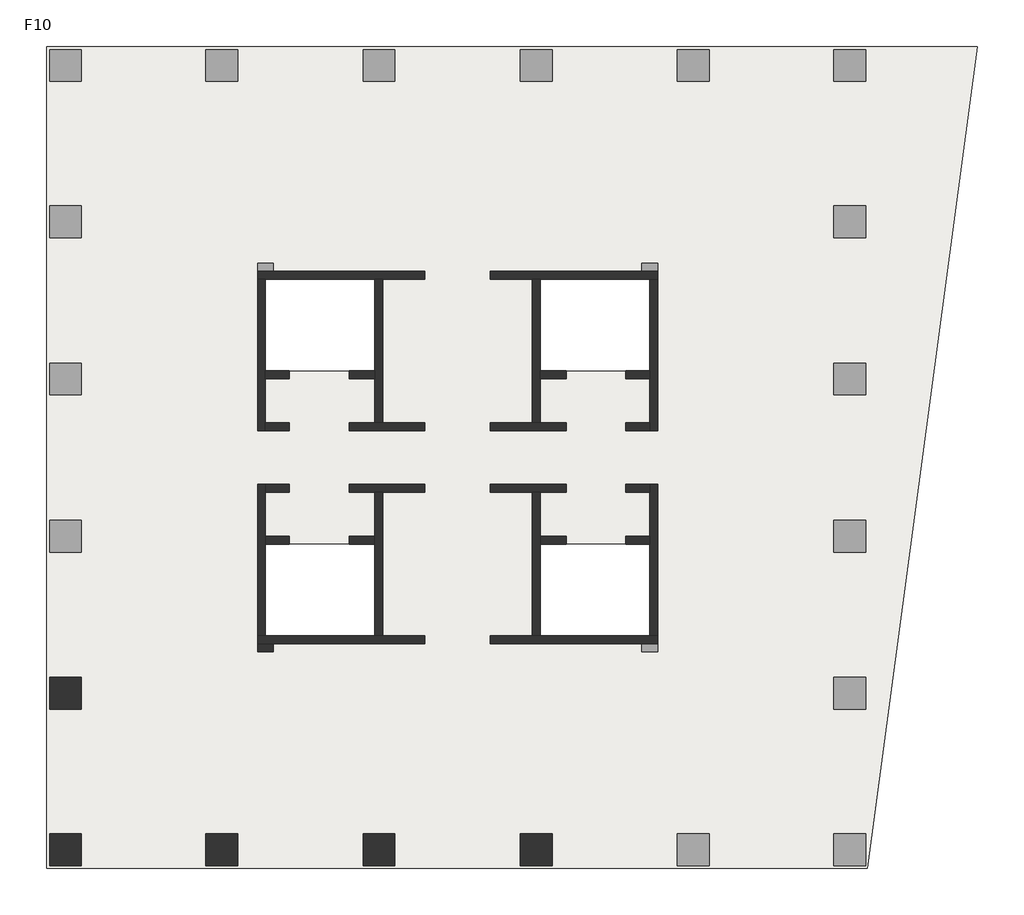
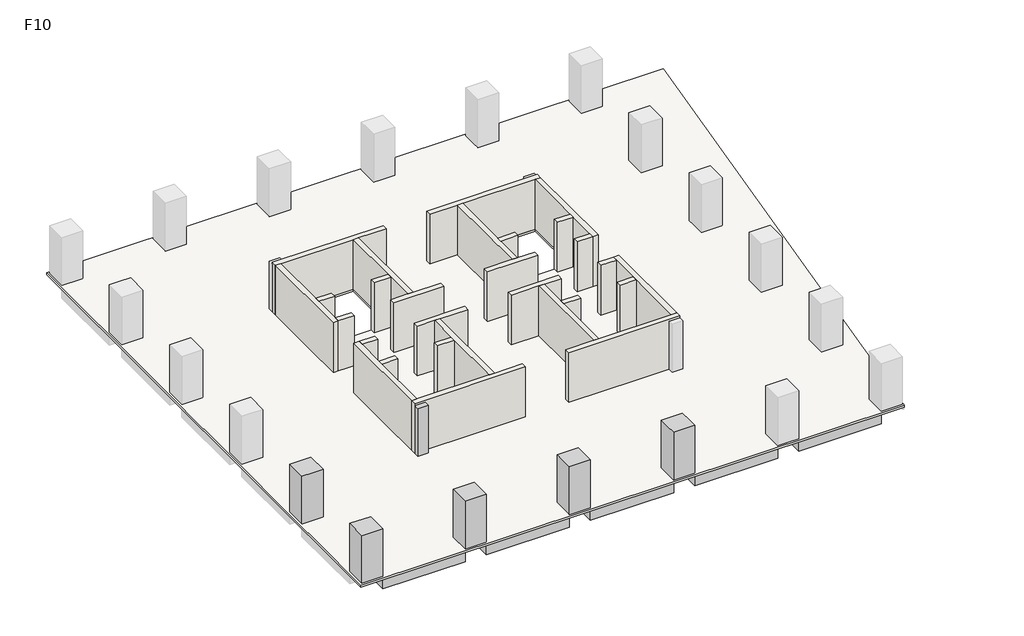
# One storey, part 1 of 2: 28 walls, 6 columns, 5 beams, 1 slab.
"""IFC4 building model written with IfcOpenShell, lengths in millimetres."""

from ifc_helpers import new_model, si_unit, frame, origin, place, context, project, spatial, polyline, outline, extrude, faceted_brep, element, save

model = new_model("IFC4")

# Units and contexts
model_context = context("Model", 3, world=origin())
ifc_project = project(units=[si_unit("LENGTHUNIT", "METRE", prefix="MILLI")], contexts=[model_context])

# Site, building, storey
site = spatial("IfcSite", under=ifc_project)
building = spatial("IfcBuilding", under=site)
storey = spatial("IfcBuildingStorey", under=building, Name="F10", Elevation=40000.0)

# Beams
placement = place(None, origin())
element("IfcBeam", 1, ObjectType="混凝土 - 矩形梁 : KL(5)-800x1000", at=placement, inside=storey, context=model_context, shape_type="SweptSolid", body=[
    extrude(outline(polyline([(-12472.6742169, -13948.9501342), (-12472.6742169, -13148.9501342), (-6222.6742169, -13148.9501342), (-6222.6742169, -13948.9501342), (-12472.6742169, -13948.9501342)])), frame((0.0, 0.0, 39000.0), z_axis=(0.0, 0.0, 1.0), x_axis=(1.0, 0.0, 0.0)), (0.0, 0.0, 1.0), 840.0),
    extrude(outline(polyline([(25327.3257831, -13148.9501342), (25327.3257831, -13948.9501342), (19077.3257831, -13948.9501342), (19077.3257831, -13148.9501342), (25327.3257831, -13148.9501342)])), frame((0.0, 0.0, 39000.0), z_axis=(0.0, 0.0, 1.0), x_axis=(1.0, 0.0, 0.0)), (0.0, 0.0, 1.0), 840.0),
    extrude(outline(polyline([(-4622.6742169, -13948.9501342), (-4622.6742169, -13148.9501342), (1677.3257831, -13148.9501342), (1677.3257831, -13948.9501342), (-4622.6742169, -13948.9501342)])), frame((0.0, 0.0, 39000.0), z_axis=(0.0, 0.0, 1.0), x_axis=(1.0, 0.0, 0.0)), (0.0, 0.0, 1.0), 840.0),
    extrude(outline(polyline([(3277.3257831, -13948.9501342), (3277.3257831, -13148.9501342), (9577.3257831, -13148.9501342), (9577.3257831, -13948.9501342), (3277.3257831, -13948.9501342)])), frame((0.0, 0.0, 39000.0), z_axis=(0.0, 0.0, 1.0), x_axis=(1.0, 0.0, 0.0)), (0.0, 0.0, 1.0), 840.0),
    extrude(outline(polyline([(11177.3257831, -13948.9501342), (11177.3257831, -13148.9501342), (17477.3257831, -13148.9501342), (17477.3257831, -13948.9501342), (11177.3257831, -13948.9501342)])), frame((0.0, 0.0, 39000.0), z_axis=(0.0, 0.0, 1.0), x_axis=(1.0, 0.0, 0.0)), (0.0, 0.0, 1.0), 840.0),
])
element("IfcBeam", 2, ObjectType="混凝土 - 矩形梁 : L1-800x500", at=placement, inside=storey, context=model_context, shape_type="Brep", body=[
    faceted_brep([(-12472.6742169, -5512.1353397, 39500.0), (-3746.9473979, -3341.556529, 39500.0), (-3173.6696907, -3198.9501342, 39500.0), (-3173.6696907, -3198.9501342, 39840.0), (-3746.9473979, -3341.556529, 39840.0), (-12472.6742169, -5512.1353397, 39840.0), (-3622.6742169, -3198.9501342, 39500.0), (-12472.6742169, -4687.7549784, 39500.0), (-3622.6742169, -2486.2624411, 39500.0), (-3622.6742169, -2798.9501342, 39500.0), (-12472.6742169, -4687.7549784, 39840.0), (-3622.6742169, -2486.2624411, 39840.0), (-3622.6742169, -3198.9501342, 39840.0)], [[[0, 1, 2, 3, 4, 5]], [[6, 2, 1, 0, 7, 8, 9]], [[8, 7, 10, 11]], [[2, 6, 12, 3]], [[9, 8, 11, 12, 6]], [[7, 0, 5, 10]], [[5, 4, 3, 12, 11, 10]]]),
])
element("IfcBeam", 3, ObjectType="混凝土 - 矩形梁 : L1-800x500", at=placement, inside=storey, context=model_context, shape_type="SweptSolid", body=[
    extrude(outline(polyline([(-3746.9473979, -3341.556529), (-3173.6696907, -3198.9501342), (-2898.7618154, -3198.9501342), (-4843.6893517, -12348.9501342), (-5661.5624638, -12348.9501342), (-3746.9473979, -3341.556529)])), frame((0.0, 0.0, 39500.0), z_axis=(0.0, 0.0, 1.0), x_axis=(1.0, 0.0, 0.0)), (0.0, 0.0, 1.0), 340.0),
])
element("IfcBeam", 4, ObjectType="混凝土 - 矩形梁 : L1-800x500", at=placement, inside=storey, context=model_context, shape_type="SweptSolid", body=[
    extrude(outline(polyline([(2877.3257831, -12348.9501342), (2077.3257831, -12348.9501342), (2077.3257831, -2798.9501342), (2877.3257831, -2798.9501342), (2877.3257831, -12348.9501342)])), frame((0.0, 0.0, 39500.0), z_axis=(0.0, 0.0, 1.0), x_axis=(1.0, 0.0, 0.0)), (0.0, 0.0, 1.0), 340.0),
])
element("IfcBeam", 5, ObjectType="混凝土 - 矩形梁 : L1-800x500", at=placement, inside=storey, context=model_context, shape_type="SweptSolid", body=[
    extrude(outline(polyline([(10777.3257831, -12348.9501342), (9977.3257831, -12348.9501342), (9977.3257831, -2798.9501342), (10777.3257831, -2798.9501342), (10777.3257831, -12348.9501342)])), frame((0.0, 0.0, 39500.0), z_axis=(0.0, 0.0, 1.0), x_axis=(1.0, 0.0, 0.0)), (0.0, 0.0, 1.0), 340.0),
])

# Columns
element("IfcColumn", 6, ObjectType="混凝土 - 矩形 - 柱 : Z1-1600x1600", at=placement, inside=storey, context=model_context, shape_type="Brep", body=[
    faceted_brep([(-12472.6742169, -4498.9501342, 40000.0), (-12472.6742169, -6098.9501342, 40000.0), (-14072.6742169, -6098.9501342, 40000.0), (-14072.6742169, -4498.9501342, 40000.0), (-12472.6742169, -4498.9501342, 43840.0), (-12472.6742169, -6098.9501342, 43840.0), (-13272.6742169, -6098.9501342, 43840.0), (-14072.6742169, -6098.9501342, 43840.0), (-14072.6742169, -6098.9501342, 43000.0), (-14072.6742169, -4498.9501342, 43840.0), (-14072.6742169, -4498.9501342, 43000.0), (-13272.6742169, -4498.9501342, 43840.0)], [[[0, 1, 2, 3]], [[1, 0, 4, 5]], [[2, 1, 5, 6, 7, 8]], [[3, 2, 8, 7, 9, 10]], [[0, 3, 10, 9, 11, 4]], [[5, 4, 11, 9, 7, 6]]]),
])
element("IfcColumn", 7, ObjectType="混凝土 - 矩形 - 柱 : Z1-1600x1600", at=placement, inside=storey, context=model_context, shape_type="SweptSolid", body=[
    extrude(outline(polyline([(-12472.6742169, -12348.9501342), (-12472.6742169, -13948.9501342), (-14072.6742169, -13948.9501342), (-14072.6742169, -12348.9501342), (-12472.6742169, -12348.9501342)])), frame((0.0, 0.0, 40000.0), z_axis=(0.0, 0.0, 1.0), x_axis=(1.0, 0.0, 0.0)), (0.0, 0.0, 1.0), 3840.0),
])
element("IfcColumn", 8, ObjectType="混凝土 - 矩形 - 柱 : Z1-1600x1600", at=placement, inside=storey, context=model_context, shape_type="Brep", body=[
    faceted_brep([(-4622.6742169, -12348.9501342, 40000.0), (-4622.6742169, -13948.9501342, 40000.0), (-6222.6742169, -13948.9501342, 40000.0), (-6222.6742169, -12348.9501342, 40000.0), (-4622.6742169, -12348.9501342, 43840.0), (-4622.6742169, -13148.9501342, 43840.0), (-4622.6742169, -13948.9501342, 43840.0), (-4622.6742169, -13948.9501342, 43000.0), (-6222.6742169, -13948.9501342, 43840.0), (-6222.6742169, -13948.9501342, 43000.0), (-6222.6742169, -13148.9501342, 43840.0), (-6222.6742169, -12348.9501342, 43840.0)], [[[0, 1, 2, 3]], [[1, 0, 4, 5, 6, 7]], [[2, 1, 7, 6, 8, 9]], [[3, 2, 9, 8, 10, 11]], [[0, 3, 11, 4]], [[6, 5, 4, 11, 10, 8]]]),
])
element("IfcColumn", 9, ObjectType="混凝土 - 矩形 - 柱 : Z1-1600x1600", at=placement, inside=storey, context=model_context, shape_type="Brep", body=[
    faceted_brep([(3277.3257831, -12348.9501342, 40000.0), (3277.3257831, -13948.9501342, 40000.0), (1677.3257831, -13948.9501342, 40000.0), (1677.3257831, -12348.9501342, 40000.0), (3277.3257831, -12348.9501342, 43840.0), (3277.3257831, -13148.9501342, 43840.0), (3277.3257831, -13948.9501342, 43840.0), (3277.3257831, -13948.9501342, 43000.0), (1677.3257831, -13948.9501342, 43840.0), (1677.3257831, -13948.9501342, 43000.0), (1677.3257831, -13148.9501342, 43840.0), (1677.3257831, -12348.9501342, 43840.0)], [[[0, 1, 2, 3]], [[1, 0, 4, 5, 6, 7]], [[2, 1, 7, 6, 8, 9]], [[3, 2, 9, 8, 10, 11]], [[0, 3, 11, 4]], [[6, 5, 4, 11, 10, 8]]]),
])
element("IfcColumn", 10, ObjectType="混凝土 - 矩形 - 柱 : Z1-1600x1600", at=placement, inside=storey, context=model_context, shape_type="Brep", body=[
    faceted_brep([(11177.3257831, -12348.9501342, 40000.0), (11177.3257831, -13948.9501342, 40000.0), (9577.3257831, -13948.9501342, 40000.0), (9577.3257831, -12348.9501342, 40000.0), (11177.3257831, -12348.9501342, 43840.0), (11177.3257831, -13148.9501342, 43840.0), (11177.3257831, -13948.9501342, 43840.0), (11177.3257831, -13948.9501342, 43000.0), (9577.3257831, -13948.9501342, 43840.0), (9577.3257831, -13948.9501342, 43000.0), (9577.3257831, -13148.9501342, 43840.0), (9577.3257831, -12348.9501342, 43840.0)], [[[0, 1, 2, 3]], [[1, 0, 4, 5, 6, 7]], [[2, 1, 7, 6, 8, 9]], [[3, 2, 9, 8, 10, 11]], [[0, 3, 11, 4]], [[6, 5, 4, 11, 10, 8]]]),
])
element("IfcColumn", 11, ObjectType="混凝土 - 矩形 - 柱 : Z2-800x800", at=placement, inside=storey, context=model_context, shape_type="SweptSolid", body=[
    extrude(outline(polyline([(-2822.6742169, -3198.9501342), (-3622.6742169, -3198.9501342), (-3622.6742169, -2798.9501342), (-2822.6742169, -2798.9501342), (-2822.6742169, -3198.9501342)])), frame((0.0, 0.0, 40000.0), z_axis=(0.0, 0.0, 1.0), x_axis=(1.0, 0.0, 0.0)), (0.0, 0.0, 1.0), 3840.0),
])

# Slab
element("IfcSlab", 12, ObjectType="LB-160", at=placement, inside=storey, context=model_context, shape_type="Brep", body=[
    faceted_brep([(32549.4477343, 27201.0498658, 39840.0), (32422.0087099, 26251.0498658, 39840.0), (27029.3257831, -13948.9501342, 39840.0), (27011.0393465, -14085.2672073, 39840.0), (-14222.6742169, -14085.2672073, 39840.0), (-14222.6742169, 27201.0498658, 39840.0), (2277.3257831, 15501.0498658, 39840.0), (-3222.6742169, 15501.0498658, 39840.0), (-3222.6742169, 10901.0498658, 39840.0), (2277.3257831, 10901.0498658, 39840.0), (2277.3257831, 2201.0498658, 39840.0), (-3222.6742169, 2201.0498658, 39840.0), (-3222.6742169, -2398.9501342, 39840.0), (2277.3257831, -2398.9501342, 39840.0), (16077.3257831, 2201.0498658, 39840.0), (10577.3257831, 2201.0498658, 39840.0), (10577.3257831, -2398.9501342, 39840.0), (16077.3257831, -2398.9501342, 39840.0), (16077.3257831, 15501.0498658, 39840.0), (10577.3257831, 15501.0498658, 39840.0), (10577.3257831, 10901.0498658, 39840.0), (16077.3257831, 10901.0498658, 39840.0), (32549.4477343, 27201.0498658, 40000.0), (-14222.6742169, 27201.0498658, 40000.0), (-14222.6742169, -14085.2672073, 40000.0), (27011.0393465, -14085.2672073, 40000.0), (2277.3257831, 15501.0498658, 40000.0), (2277.3257831, 10901.0498658, 40000.0), (-3222.6742169, 10901.0498658, 40000.0), (-3222.6742169, 15501.0498658, 40000.0), (2277.3257831, 2201.0498658, 40000.0), (2277.3257831, -2398.9501342, 40000.0), (-3222.6742169, -2398.9501342, 40000.0), (-3222.6742169, 2201.0498658, 40000.0), (16077.3257831, 2201.0498658, 40000.0), (16077.3257831, -2398.9501342, 40000.0), (10577.3257831, -2398.9501342, 40000.0), (10577.3257831, 2201.0498658, 40000.0), (16077.3257831, 15501.0498658, 40000.0), (16077.3257831, 10901.0498658, 40000.0), (10577.3257831, 10901.0498658, 40000.0), (10577.3257831, 15501.0498658, 40000.0)], [[[0, 1, 2, 3, 4, 5], [6, 7, 8, 9], [10, 11, 12, 13], [14, 15, 16, 17], [18, 19, 20, 21]], [[22, 23, 24, 25], [26, 27, 28, 29], [30, 31, 32, 33], [34, 35, 36, 37], [38, 39, 40, 41]], [[3, 2, 1, 0, 22, 25]], [[4, 3, 25, 24]], [[5, 4, 24, 23]], [[0, 5, 23, 22]], [[7, 6, 26, 29]], [[8, 7, 29, 28]], [[9, 8, 28, 27]], [[6, 9, 27, 26]], [[11, 10, 30, 33]], [[12, 11, 33, 32]], [[13, 12, 32, 31]], [[10, 13, 31, 30]], [[15, 14, 34, 37]], [[16, 15, 37, 36]], [[17, 16, 36, 35]], [[14, 17, 35, 34]], [[19, 18, 38, 41]], [[20, 19, 41, 40]], [[21, 20, 40, 39]], [[18, 21, 39, 38]]]),
])

# Walls
element("IfcWall", 13, ObjectType="剪力墙-400", at=placement, inside=storey, context=model_context, shape_type="Brep", body=[
    faceted_brep([(-3622.6742169, 15501.0498658, 40000.0), (-3222.6742169, 15501.0498658, 40000.0), (2277.3257831, 15501.0498658, 40000.0), (2677.3257831, 15501.0498658, 40000.0), (4777.3257831, 15501.0498658, 40000.0), (4777.3257831, 15501.0498658, 44000.0), (2677.3257831, 15501.0498658, 44000.0), (2277.3257831, 15501.0498658, 44000.0), (-3222.6742169, 15501.0498658, 44000.0), (-3622.6742169, 15501.0498658, 44000.0), (-3622.6742169, 15901.0498658, 40000.0), (-3622.6742169, 15901.0498658, 43840.0), (-3622.6742169, 15901.0498658, 44000.0), (4777.3257831, 15901.0498658, 44000.0), (4777.3257831, 15901.0498658, 40000.0), (-2822.6742169, 15901.0498658, 40000.0)], [[[0, 1, 2, 3, 4, 5, 6, 7, 8, 9]], [[10, 11, 12, 13, 14, 15]], [[4, 3, 2, 1, 0, 10, 15, 14]], [[5, 4, 14, 13]], [[9, 8, 7, 6, 5, 13, 12]], [[0, 9, 12, 11, 10]]]),
])
element("IfcWall", 14, ObjectType="剪力墙-400", at=placement, inside=storey, context=model_context, shape_type="Brep", body=[
    faceted_brep([(2277.3257831, 15501.0498658, 40000.0), (2277.3257831, 10901.0498658, 40000.0), (2277.3257831, 10501.0498658, 40000.0), (2277.3257831, 8301.0498658, 40000.0), (2277.3257831, 8301.0498658, 44000.0), (2277.3257831, 10501.0498658, 44000.0), (2277.3257831, 10901.0498658, 44000.0), (2277.3257831, 15501.0498658, 44000.0), (2677.3257831, 15501.0498658, 40000.0), (2677.3257831, 15501.0498658, 44000.0), (2677.3257831, 8301.0498658, 44000.0), (2677.3257831, 8301.0498658, 40000.0)], [[[0, 1, 2, 3, 4, 5, 6, 7]], [[8, 9, 10, 11]], [[3, 2, 1, 0, 8, 11]], [[7, 6, 5, 4, 10, 9]], [[0, 7, 9, 8]], [[4, 3, 11, 10]]]),
])
element("IfcWall", 15, ObjectType="剪力墙-400", at=placement, inside=storey, context=model_context, shape_type="Brep", body=[
    faceted_brep([(-3622.6742169, 15501.0498658, 40000.0), (-3622.6742169, 7901.0498658, 40000.0), (-3622.6742169, 7901.0498658, 44000.0), (-3622.6742169, 15501.0498658, 44000.0), (-3222.6742169, 15501.0498658, 40000.0), (-3222.6742169, 15501.0498658, 44000.0), (-3222.6742169, 10901.0498658, 44000.0), (-3222.6742169, 10501.0498658, 44000.0), (-3222.6742169, 8301.0498658, 44000.0), (-3222.6742169, 7901.0498658, 44000.0), (-3222.6742169, 7901.0498658, 40000.0), (-3222.6742169, 8301.0498658, 40000.0), (-3222.6742169, 10501.0498658, 40000.0), (-3222.6742169, 10901.0498658, 40000.0)], [[[0, 1, 2, 3]], [[4, 5, 6, 7, 8, 9, 10, 11, 12, 13]], [[1, 0, 4, 13, 12, 11, 10]], [[3, 2, 9, 8, 7, 6, 5]], [[0, 3, 5, 4]], [[2, 1, 10, 9]]]),
])
element("IfcWall", 16, ObjectType="剪力墙-400", at=placement, inside=storey, context=model_context, shape_type="SweptSolid", body=[
    extrude(outline(polyline([(-2022.6742169, 7901.0498658), (-3222.6742169, 7901.0498658), (-3222.6742169, 8301.0498658), (-2022.6742169, 8301.0498658), (-2022.6742169, 7901.0498658)])), frame((0.0, 0.0, 40000.0), z_axis=(0.0, 0.0, 1.0), x_axis=(1.0, 0.0, 0.0)), (0.0, 0.0, 1.0), 4000.0),
])
element("IfcWall", 17, ObjectType="剪力墙-400", at=placement, inside=storey, context=model_context, shape_type="Brep", body=[
    faceted_brep([(977.3257831, 7901.0498658, 40000.0), (4777.3257831, 7901.0498658, 40000.0), (4777.3257831, 7901.0498658, 44000.0), (977.3257831, 7901.0498658, 44000.0), (977.3257831, 8301.0498658, 40000.0), (977.3257831, 8301.0498658, 44000.0), (2277.3257831, 8301.0498658, 44000.0), (2677.3257831, 8301.0498658, 44000.0), (4777.3257831, 8301.0498658, 44000.0), (4777.3257831, 8301.0498658, 40000.0), (2677.3257831, 8301.0498658, 40000.0), (2277.3257831, 8301.0498658, 40000.0)], [[[0, 1, 2, 3]], [[4, 5, 6, 7, 8, 9, 10, 11]], [[1, 0, 4, 11, 10, 9]], [[2, 1, 9, 8]], [[3, 2, 8, 7, 6, 5]], [[0, 3, 5, 4]]]),
])
element("IfcWall", 18, ObjectType="剪力墙-400", at=placement, inside=storey, context=model_context, shape_type="SweptSolid", body=[
    extrude(outline(polyline([(-2022.6742169, 10501.0498658), (-3222.6742169, 10501.0498658), (-3222.6742169, 10901.0498658), (-2022.6742169, 10901.0498658), (-2022.6742169, 10501.0498658)])), frame((0.0, 0.0, 40000.0), z_axis=(0.0, 0.0, 1.0), x_axis=(1.0, 0.0, 0.0)), (0.0, 0.0, 1.0), 4000.0),
])
element("IfcWall", 19, ObjectType="剪力墙-400", at=placement, inside=storey, context=model_context, shape_type="SweptSolid", body=[
    extrude(outline(polyline([(2277.3257831, 10501.0498658), (977.3257831, 10501.0498658), (977.3257831, 10901.0498658), (2277.3257831, 10901.0498658), (2277.3257831, 10501.0498658)])), frame((0.0, 0.0, 40000.0), z_axis=(0.0, 0.0, 1.0), x_axis=(1.0, 0.0, 0.0)), (0.0, 0.0, 1.0), 4000.0),
])
element("IfcWall", 20, ObjectType="剪力墙-400", at=placement, inside=storey, context=model_context, shape_type="Brep", body=[
    faceted_brep([(16477.3257831, 15901.0498658, 40000.0), (15677.3257831, 15901.0498658, 40000.0), (8077.3257831, 15901.0498658, 40000.0), (8077.3257831, 15901.0498658, 44000.0), (16477.3257831, 15901.0498658, 44000.0), (16477.3257831, 15901.0498658, 43840.0), (16477.3257831, 15501.0498658, 40000.0), (16477.3257831, 15501.0498658, 44000.0), (16077.3257831, 15501.0498658, 44000.0), (10577.3257831, 15501.0498658, 44000.0), (10177.3257831, 15501.0498658, 44000.0), (8077.3257831, 15501.0498658, 44000.0), (8077.3257831, 15501.0498658, 40000.0), (10177.3257831, 15501.0498658, 40000.0), (10577.3257831, 15501.0498658, 40000.0), (16077.3257831, 15501.0498658, 40000.0)], [[[0, 1, 2, 3, 4, 5]], [[6, 7, 8, 9, 10, 11, 12, 13, 14, 15]], [[2, 1, 0, 6, 15, 14, 13, 12]], [[3, 2, 12, 11]], [[4, 3, 11, 10, 9, 8, 7]], [[0, 5, 4, 7, 6]]]),
])
element("IfcWall", 21, ObjectType="剪力墙-400", at=placement, inside=storey, context=model_context, shape_type="Brep", body=[
    faceted_brep([(10177.3257831, 15501.0498658, 40000.0), (10177.3257831, 8301.0498658, 40000.0), (10177.3257831, 8301.0498658, 44000.0), (10177.3257831, 15501.0498658, 44000.0), (10577.3257831, 15501.0498658, 40000.0), (10577.3257831, 15501.0498658, 44000.0), (10577.3257831, 10901.0498658, 44000.0), (10577.3257831, 10501.0498658, 44000.0), (10577.3257831, 8301.0498658, 44000.0), (10577.3257831, 8301.0498658, 40000.0), (10577.3257831, 10501.0498658, 40000.0), (10577.3257831, 10901.0498658, 40000.0)], [[[0, 1, 2, 3]], [[4, 5, 6, 7, 8, 9, 10, 11]], [[1, 0, 4, 11, 10, 9]], [[3, 2, 8, 7, 6, 5]], [[0, 3, 5, 4]], [[2, 1, 9, 8]]]),
])
element("IfcWall", 22, ObjectType="剪力墙-400", at=placement, inside=storey, context=model_context, shape_type="Brep", body=[
    faceted_brep([(16077.3257831, 15501.0498658, 40000.0), (16077.3257831, 10901.0498658, 40000.0), (16077.3257831, 10501.0498658, 40000.0), (16077.3257831, 8301.0498658, 40000.0), (16077.3257831, 7901.0498658, 40000.0), (16077.3257831, 7901.0498658, 44000.0), (16077.3257831, 8301.0498658, 44000.0), (16077.3257831, 10501.0498658, 44000.0), (16077.3257831, 10901.0498658, 44000.0), (16077.3257831, 15501.0498658, 44000.0), (16477.3257831, 15501.0498658, 40000.0), (16477.3257831, 15501.0498658, 44000.0), (16477.3257831, 7901.0498658, 44000.0), (16477.3257831, 7901.0498658, 40000.0)], [[[0, 1, 2, 3, 4, 5, 6, 7, 8, 9]], [[10, 11, 12, 13]], [[4, 3, 2, 1, 0, 10, 13]], [[9, 8, 7, 6, 5, 12, 11]], [[0, 9, 11, 10]], [[5, 4, 13, 12]]]),
])
element("IfcWall", 23, ObjectType="剪力墙-400", at=placement, inside=storey, context=model_context, shape_type="SweptSolid", body=[
    extrude(outline(polyline([(14877.3257831, 8301.0498658), (16077.3257831, 8301.0498658), (16077.3257831, 7901.0498658), (14877.3257831, 7901.0498658), (14877.3257831, 8301.0498658)])), frame((0.0, 0.0, 40000.0), z_axis=(0.0, 0.0, 1.0), x_axis=(1.0, 0.0, 0.0)), (0.0, 0.0, 1.0), 4000.0),
])
element("IfcWall", 24, ObjectType="剪力墙-400", at=placement, inside=storey, context=model_context, shape_type="Brep", body=[
    faceted_brep([(11877.3257831, 8301.0498658, 40000.0), (10577.3257831, 8301.0498658, 40000.0), (10177.3257831, 8301.0498658, 40000.0), (8077.3257831, 8301.0498658, 40000.0), (8077.3257831, 8301.0498658, 44000.0), (10177.3257831, 8301.0498658, 44000.0), (10577.3257831, 8301.0498658, 44000.0), (11877.3257831, 8301.0498658, 44000.0), (11877.3257831, 7901.0498658, 40000.0), (11877.3257831, 7901.0498658, 44000.0), (8077.3257831, 7901.0498658, 44000.0), (8077.3257831, 7901.0498658, 40000.0)], [[[0, 1, 2, 3, 4, 5, 6, 7]], [[8, 9, 10, 11]], [[3, 2, 1, 0, 8, 11]], [[4, 3, 11, 10]], [[7, 6, 5, 4, 10, 9]], [[0, 7, 9, 8]]]),
])
element("IfcWall", 25, ObjectType="剪力墙-400", at=placement, inside=storey, context=model_context, shape_type="SweptSolid", body=[
    extrude(outline(polyline([(14877.3257831, 10901.0498658), (16077.3257831, 10901.0498658), (16077.3257831, 10501.0498658), (14877.3257831, 10501.0498658), (14877.3257831, 10901.0498658)])), frame((0.0, 0.0, 40000.0), z_axis=(0.0, 0.0, 1.0), x_axis=(1.0, 0.0, 0.0)), (0.0, 0.0, 1.0), 4000.0),
])
element("IfcWall", 26, ObjectType="剪力墙-400", at=placement, inside=storey, context=model_context, shape_type="SweptSolid", body=[
    extrude(outline(polyline([(10577.3257831, 10901.0498658), (11877.3257831, 10901.0498658), (11877.3257831, 10501.0498658), (10577.3257831, 10501.0498658), (10577.3257831, 10901.0498658)])), frame((0.0, 0.0, 40000.0), z_axis=(0.0, 0.0, 1.0), x_axis=(1.0, 0.0, 0.0)), (0.0, 0.0, 1.0), 4000.0),
])
element("IfcWall", 27, ObjectType="剪力墙-400", at=placement, inside=storey, context=model_context, shape_type="Brep", body=[
    faceted_brep([(-3622.6742169, -2798.9501342, 40000.0), (-2822.6742169, -2798.9501342, 40000.0), (4777.3257831, -2798.9501342, 40000.0), (4777.3257831, -2798.9501342, 44000.0), (-3622.6742169, -2798.9501342, 44000.0), (-3622.6742169, -2798.9501342, 43840.0), (-3622.6742169, -2398.9501342, 40000.0), (-3622.6742169, -2398.9501342, 44000.0), (-3222.6742169, -2398.9501342, 44000.0), (2277.3257831, -2398.9501342, 44000.0), (2677.3257831, -2398.9501342, 44000.0), (4777.3257831, -2398.9501342, 44000.0), (4777.3257831, -2398.9501342, 40000.0), (2677.3257831, -2398.9501342, 40000.0), (2277.3257831, -2398.9501342, 40000.0), (-3222.6742169, -2398.9501342, 40000.0)], [[[0, 1, 2, 3, 4, 5]], [[6, 7, 8, 9, 10, 11, 12, 13, 14, 15]], [[2, 1, 0, 6, 15, 14, 13, 12]], [[3, 2, 12, 11]], [[4, 3, 11, 10, 9, 8, 7]], [[0, 5, 4, 7, 6]]]),
])
element("IfcWall", 28, ObjectType="剪力墙-400", at=placement, inside=storey, context=model_context, shape_type="Brep", body=[
    faceted_brep([(2677.3257831, -2398.9501342, 40000.0), (2677.3257831, 4801.0498658, 40000.0), (2677.3257831, 4801.0498658, 44000.0), (2677.3257831, -2398.9501342, 44000.0), (2277.3257831, -2398.9501342, 40000.0), (2277.3257831, -2398.9501342, 44000.0), (2277.3257831, 2201.0498658, 44000.0), (2277.3257831, 2601.0498658, 44000.0), (2277.3257831, 4801.0498658, 44000.0), (2277.3257831, 4801.0498658, 40000.0), (2277.3257831, 2601.0498658, 40000.0), (2277.3257831, 2201.0498658, 40000.0)], [[[0, 1, 2, 3]], [[4, 5, 6, 7, 8, 9, 10, 11]], [[1, 0, 4, 11, 10, 9]], [[3, 2, 8, 7, 6, 5]], [[0, 3, 5, 4]], [[2, 1, 9, 8]]]),
])
element("IfcWall", 29, ObjectType="剪力墙-400", at=placement, inside=storey, context=model_context, shape_type="Brep", body=[
    faceted_brep([(-3222.6742169, -2398.9501342, 40000.0), (-3222.6742169, 2201.0498658, 40000.0), (-3222.6742169, 2601.0498658, 40000.0), (-3222.6742169, 4801.0498658, 40000.0), (-3222.6742169, 5201.0498658, 40000.0), (-3222.6742169, 5201.0498658, 44000.0), (-3222.6742169, 4801.0498658, 44000.0), (-3222.6742169, 2601.0498658, 44000.0), (-3222.6742169, 2201.0498658, 44000.0), (-3222.6742169, -2398.9501342, 44000.0), (-3622.6742169, -2398.9501342, 40000.0), (-3622.6742169, -2398.9501342, 44000.0), (-3622.6742169, 5201.0498658, 44000.0), (-3622.6742169, 5201.0498658, 40000.0)], [[[0, 1, 2, 3, 4, 5, 6, 7, 8, 9]], [[10, 11, 12, 13]], [[4, 3, 2, 1, 0, 10, 13]], [[9, 8, 7, 6, 5, 12, 11]], [[0, 9, 11, 10]], [[5, 4, 13, 12]]]),
])
element("IfcWall", 30, ObjectType="剪力墙-400", at=placement, inside=storey, context=model_context, shape_type="SweptSolid", body=[
    extrude(outline(polyline([(-2022.6742169, 4801.0498658), (-3222.6742169, 4801.0498658), (-3222.6742169, 5201.0498658), (-2022.6742169, 5201.0498658), (-2022.6742169, 4801.0498658)])), frame((0.0, 0.0, 40000.0), z_axis=(0.0, 0.0, 1.0), x_axis=(1.0, 0.0, 0.0)), (0.0, 0.0, 1.0), 4000.0),
])
element("IfcWall", 31, ObjectType="剪力墙-400", at=placement, inside=storey, context=model_context, shape_type="Brep", body=[
    faceted_brep([(977.3257831, 4801.0498658, 40000.0), (2277.3257831, 4801.0498658, 40000.0), (2677.3257831, 4801.0498658, 40000.0), (4777.3257831, 4801.0498658, 40000.0), (4777.3257831, 4801.0498658, 44000.0), (2677.3257831, 4801.0498658, 44000.0), (2277.3257831, 4801.0498658, 44000.0), (977.3257831, 4801.0498658, 44000.0), (977.3257831, 5201.0498658, 40000.0), (977.3257831, 5201.0498658, 44000.0), (4777.3257831, 5201.0498658, 44000.0), (4777.3257831, 5201.0498658, 40000.0)], [[[0, 1, 2, 3, 4, 5, 6, 7]], [[8, 9, 10, 11]], [[3, 2, 1, 0, 8, 11]], [[4, 3, 11, 10]], [[7, 6, 5, 4, 10, 9]], [[0, 7, 9, 8]]]),
])
element("IfcWall", 32, ObjectType="剪力墙-400", at=placement, inside=storey, context=model_context, shape_type="SweptSolid", body=[
    extrude(outline(polyline([(-2022.6742169, 2201.0498658), (-3222.6742169, 2201.0498658), (-3222.6742169, 2601.0498658), (-2022.6742169, 2601.0498658), (-2022.6742169, 2201.0498658)])), frame((0.0, 0.0, 40000.0), z_axis=(0.0, 0.0, 1.0), x_axis=(1.0, 0.0, 0.0)), (0.0, 0.0, 1.0), 4000.0),
])
element("IfcWall", 33, ObjectType="剪力墙-400", at=placement, inside=storey, context=model_context, shape_type="SweptSolid", body=[
    extrude(outline(polyline([(2277.3257831, 2201.0498658), (977.3257831, 2201.0498658), (977.3257831, 2601.0498658), (2277.3257831, 2601.0498658), (2277.3257831, 2201.0498658)])), frame((0.0, 0.0, 40000.0), z_axis=(0.0, 0.0, 1.0), x_axis=(1.0, 0.0, 0.0)), (0.0, 0.0, 1.0), 4000.0),
])
element("IfcWall", 34, ObjectType="剪力墙-400", at=placement, inside=storey, context=model_context, shape_type="Brep", body=[
    faceted_brep([(16477.3257831, -2398.9501342, 40000.0), (16077.3257831, -2398.9501342, 40000.0), (10577.3257831, -2398.9501342, 40000.0), (10177.3257831, -2398.9501342, 40000.0), (8077.3257831, -2398.9501342, 40000.0), (8077.3257831, -2398.9501342, 44000.0), (10177.3257831, -2398.9501342, 44000.0), (10577.3257831, -2398.9501342, 44000.0), (16077.3257831, -2398.9501342, 44000.0), (16477.3257831, -2398.9501342, 44000.0), (16477.3257831, -2798.9501342, 40000.0), (16477.3257831, -2798.9501342, 43840.0), (16477.3257831, -2798.9501342, 44000.0), (8077.3257831, -2798.9501342, 44000.0), (8077.3257831, -2798.9501342, 40000.0), (15677.3257831, -2798.9501342, 40000.0)], [[[0, 1, 2, 3, 4, 5, 6, 7, 8, 9]], [[10, 11, 12, 13, 14, 15]], [[4, 3, 2, 1, 0, 10, 15, 14]], [[5, 4, 14, 13]], [[9, 8, 7, 6, 5, 13, 12]], [[0, 9, 12, 11, 10]]]),
])
element("IfcWall", 35, ObjectType="剪力墙-400", at=placement, inside=storey, context=model_context, shape_type="Brep", body=[
    faceted_brep([(10577.3257831, -2398.9501342, 40000.0), (10577.3257831, 2201.0498658, 40000.0), (10577.3257831, 2601.0498658, 40000.0), (10577.3257831, 4801.0498658, 40000.0), (10577.3257831, 4801.0498658, 44000.0), (10577.3257831, 2601.0498658, 44000.0), (10577.3257831, 2201.0498658, 44000.0), (10577.3257831, -2398.9501342, 44000.0), (10177.3257831, -2398.9501342, 40000.0), (10177.3257831, -2398.9501342, 44000.0), (10177.3257831, 4801.0498658, 44000.0), (10177.3257831, 4801.0498658, 40000.0)], [[[0, 1, 2, 3, 4, 5, 6, 7]], [[8, 9, 10, 11]], [[3, 2, 1, 0, 8, 11]], [[7, 6, 5, 4, 10, 9]], [[0, 7, 9, 8]], [[4, 3, 11, 10]]]),
])
element("IfcWall", 36, ObjectType="剪力墙-400", at=placement, inside=storey, context=model_context, shape_type="Brep", body=[
    faceted_brep([(16477.3257831, -2398.9501342, 40000.0), (16477.3257831, 5201.0498658, 40000.0), (16477.3257831, 5201.0498658, 44000.0), (16477.3257831, -2398.9501342, 44000.0), (16077.3257831, -2398.9501342, 40000.0), (16077.3257831, -2398.9501342, 44000.0), (16077.3257831, 2201.0498658, 44000.0), (16077.3257831, 2601.0498658, 44000.0), (16077.3257831, 4801.0498658, 44000.0), (16077.3257831, 5201.0498658, 44000.0), (16077.3257831, 5201.0498658, 40000.0), (16077.3257831, 4801.0498658, 40000.0), (16077.3257831, 2601.0498658, 40000.0), (16077.3257831, 2201.0498658, 40000.0)], [[[0, 1, 2, 3]], [[4, 5, 6, 7, 8, 9, 10, 11, 12, 13]], [[1, 0, 4, 13, 12, 11, 10]], [[3, 2, 9, 8, 7, 6, 5]], [[0, 3, 5, 4]], [[2, 1, 10, 9]]]),
])
element("IfcWall", 37, ObjectType="剪力墙-400", at=placement, inside=storey, context=model_context, shape_type="SweptSolid", body=[
    extrude(outline(polyline([(14877.3257831, 5201.0498658), (16077.3257831, 5201.0498658), (16077.3257831, 4801.0498658), (14877.3257831, 4801.0498658), (14877.3257831, 5201.0498658)])), frame((0.0, 0.0, 40000.0), z_axis=(0.0, 0.0, 1.0), x_axis=(1.0, 0.0, 0.0)), (0.0, 0.0, 1.0), 4000.0),
])
element("IfcWall", 38, ObjectType="剪力墙-400", at=placement, inside=storey, context=model_context, shape_type="Brep", body=[
    faceted_brep([(11877.3257831, 5201.0498658, 40000.0), (8077.3257831, 5201.0498658, 40000.0), (8077.3257831, 5201.0498658, 44000.0), (11877.3257831, 5201.0498658, 44000.0), (11877.3257831, 4801.0498658, 40000.0), (11877.3257831, 4801.0498658, 44000.0), (10577.3257831, 4801.0498658, 44000.0), (10177.3257831, 4801.0498658, 44000.0), (8077.3257831, 4801.0498658, 44000.0), (8077.3257831, 4801.0498658, 40000.0), (10177.3257831, 4801.0498658, 40000.0), (10577.3257831, 4801.0498658, 40000.0)], [[[0, 1, 2, 3]], [[4, 5, 6, 7, 8, 9, 10, 11]], [[1, 0, 4, 11, 10, 9]], [[2, 1, 9, 8]], [[3, 2, 8, 7, 6, 5]], [[0, 3, 5, 4]]]),
])
element("IfcWall", 39, ObjectType="剪力墙-400", at=placement, inside=storey, context=model_context, shape_type="SweptSolid", body=[
    extrude(outline(polyline([(14877.3257831, 2601.0498658), (16077.3257831, 2601.0498658), (16077.3257831, 2201.0498658), (14877.3257831, 2201.0498658), (14877.3257831, 2601.0498658)])), frame((0.0, 0.0, 40000.0), z_axis=(0.0, 0.0, 1.0), x_axis=(1.0, 0.0, 0.0)), (0.0, 0.0, 1.0), 4000.0),
])
element("IfcWall", 40, ObjectType="剪力墙-400", at=placement, inside=storey, context=model_context, shape_type="SweptSolid", body=[
    extrude(outline(polyline([(10577.3257831, 2601.0498658), (11877.3257831, 2601.0498658), (11877.3257831, 2201.0498658), (10577.3257831, 2201.0498658), (10577.3257831, 2601.0498658)])), frame((0.0, 0.0, 40000.0), z_axis=(0.0, 0.0, 1.0), x_axis=(1.0, 0.0, 0.0)), (0.0, 0.0, 1.0), 4000.0),
])

save(model, "model.ifc")
